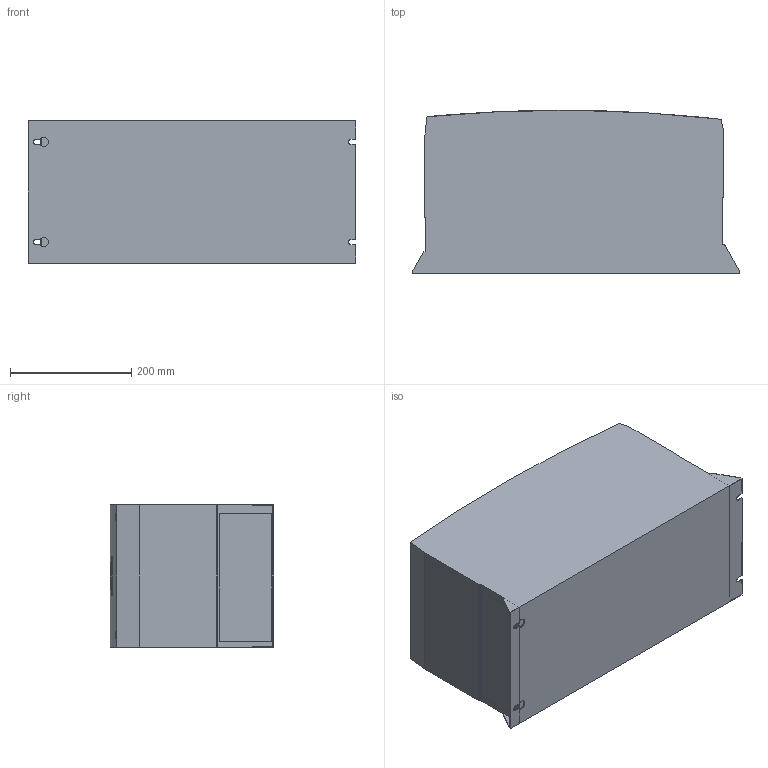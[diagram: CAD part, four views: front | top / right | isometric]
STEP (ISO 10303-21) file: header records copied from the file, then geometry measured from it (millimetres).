
FILE_DESCRIPTION (( 'STEP AP214' ), '1' );
FILE_NAME ('P2 S5 IP55.STEP', '2017-08-15T14:04:58', ( '' ), ( '' ), 'SwSTEP 2.0', 'SolidWorks 2017', '' );
FILE_SCHEMA (( 'AUTOMOTIVE_DESIGN' ));
Length unit declared in the file: millimetre
Products named in the file (1): P2 S5 IP55
Bounding box: 540 x 269.2 x 235 mm (x, y, z)
Volume: 30568652.4 mm3; surface area: 639689.6 mm2
Topology: 1 solids, 1 shells, 230 faces, 599 edges, 398 vertices
Faces by surface type: bspline 81, plane 75, cylinder 74
Entity records: 10683 total; most frequent: CARTESIAN_POINT 5751, ORIENTED_EDGE 1198, DIRECTION 675, EDGE_CURVE 599, VERTEX_POINT 398, VECTOR 279, LINE 279, EDGE_LOOP 261
